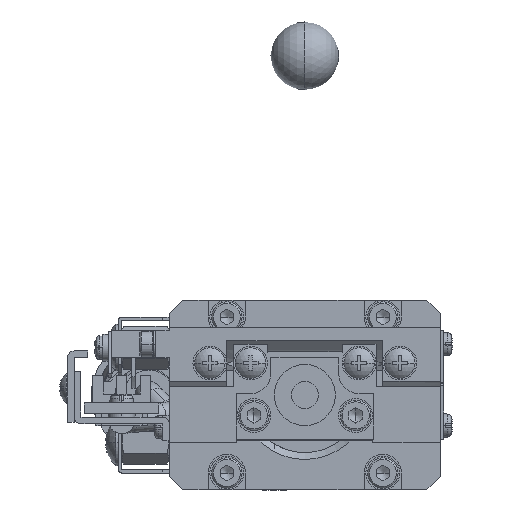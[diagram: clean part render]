
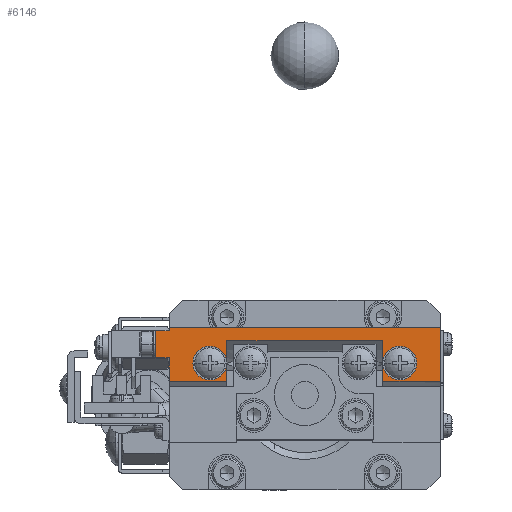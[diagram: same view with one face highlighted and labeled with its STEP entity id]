
A CAD part, left-side view. The second image highlights one B-rep face of the part: STEP entity #6146.
In plain terms, the highlighted planar face has unit normal (-1, 0, 0).
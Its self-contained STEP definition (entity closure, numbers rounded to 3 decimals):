
#1402 = PLANE ( 'NONE',  #17352 ) ;
#1781 = DIRECTION ( 'NONE',  ( 0., 1., 0. ) ) ;
#1808 = EDGE_CURVE ( 'NONE', #65902, #69815, #25655, .T. ) ;
#1823 = DIRECTION ( 'NONE',  ( 0., 0., 1. ) ) ;
#3505 = ORIENTED_EDGE ( 'NONE', *, *, #35122, .F. ) ;
#3704 = DIRECTION ( 'NONE',  ( 0., 1., 0. ) ) ;
#3941 = LINE ( 'NONE', #21443, #16340 ) ;
#4111 = DIRECTION ( 'NONE',  ( 0., 0., 1. ) ) ;
#4333 = CARTESIAN_POINT ( 'NONE',  ( -126.996, -106.409, -58.849 ) ) ;
#5306 = EDGE_CURVE ( 'NONE', #27805, #46071, #17742, .T. ) ;
#5704 = LINE ( 'NONE', #27641, #18034 ) ;
#6146 = ADVANCED_FACE ( 'NONE', ( #8097 ), #1402, .T. ) ;
#6915 = DIRECTION ( 'NONE',  ( 0., 1., 0. ) ) ;
#7143 = LINE ( 'NONE', #56476, #18630 ) ;
#7340 = DIRECTION ( 'NONE',  ( 0., 0., 1. ) ) ;
#7585 = DIRECTION ( 'NONE',  ( -1., 0., 0. ) ) ;
#7871 = ORIENTED_EDGE ( 'NONE', *, *, #1808, .F. ) ;
#8097 = FACE_OUTER_BOUND ( 'NONE', #33274, .T. ) ;
#8668 = CARTESIAN_POINT ( 'NONE',  ( -126.996, -80.909, -61.597 ) ) ;
#8812 = EDGE_CURVE ( 'NONE', #43288, #48448, #12671, .T. ) ;
#9478 = DIRECTION ( 'NONE',  ( 0., 1., 0. ) ) ;
#9816 = CARTESIAN_POINT ( 'NONE',  ( -126.996, -83.409, -58.296 ) ) ;
#10217 = DIRECTION ( 'NONE',  ( 0., 0., 1. ) ) ;
#10324 = DIRECTION ( 'NONE',  ( 0., 0., 1. ) ) ;
#10386 = DIRECTION ( 'NONE',  ( 0., 1., 0. ) ) ;
#10453 = CARTESIAN_POINT ( 'NONE',  ( -126.996, -83.409, -68.317 ) ) ;
#11118 = VERTEX_POINT ( 'NONE', #36730 ) ;
#12671 = LINE ( 'NONE', #10453, #73398 ) ;
#13242 = DIRECTION ( 'NONE',  ( 0., 1., 0. ) ) ;
#13533 = EDGE_CURVE ( 'NONE', #48448, #69815, #55663, .T. ) ;
#15837 = DIRECTION ( 'NONE',  ( 0., 0., 1. ) ) ;
#16340 = VECTOR ( 'NONE', #9478, 1000. ) ;
#16364 = ORIENTED_EDGE ( 'NONE', *, *, #53882, .F. ) ;
#17352 = AXIS2_PLACEMENT_3D ( 'NONE', #74535, #7585, #7340 ) ;
#17742 = LINE ( 'NONE', #40546, #68336 ) ;
#18034 = VECTOR ( 'NONE', #10324, 1000. ) ;
#18630 = VECTOR ( 'NONE', #13242, 1000. ) ;
#18852 = AXIS2_PLACEMENT_3D ( 'NONE', #75165, #50389, #1781 ) ;
#18899 = VECTOR ( 'NONE', #15837, 1000. ) ;
#19219 = DIRECTION ( 'NONE',  ( 0., 1., 0. ) ) ;
#19542 = VERTEX_POINT ( 'NONE', #59252 ) ;
#19715 = CARTESIAN_POINT ( 'NONE',  ( -126.996, -98.909, -58.296 ) ) ;
#20296 = ORIENTED_EDGE ( 'NONE', *, *, #13533, .T. ) ;
#20530 = CARTESIAN_POINT ( 'NONE',  ( -126.996, -74.909, -64.317 ) ) ;
#20548 = VECTOR ( 'NONE', #1823, 1000. ) ;
#20569 = EDGE_CURVE ( 'NONE', #19542, #43917, #68446, .T. ) ;
#21443 = CARTESIAN_POINT ( 'NONE',  ( -126.996, -78.409, -56.317 ) ) ;
#21708 = ORIENTED_EDGE ( 'NONE', *, *, #61086, .T. ) ;
#22230 = VECTOR ( 'NONE', #4111, 1000. ) ;
#24351 = CARTESIAN_POINT ( 'NONE',  ( -126.996, -83.409, -64.317 ) ) ;
#25181 = CARTESIAN_POINT ( 'NONE',  ( -126.996, -74.909, -64.317 ) ) ;
#25655 = LINE ( 'NONE', #19715, #44769 ) ;
#25799 = CARTESIAN_POINT ( 'NONE',  ( -126.996, -83.409, -61.597 ) ) ;
#27390 = ORIENTED_EDGE ( 'NONE', *, *, #31431, .F. ) ;
#27510 = VERTEX_POINT ( 'NONE', #60554 ) ;
#27641 = CARTESIAN_POINT ( 'NONE',  ( -126.996, -106.409, -68.317 ) ) ;
#27805 = VERTEX_POINT ( 'NONE', #79228 ) ;
#27910 = VECTOR ( 'NONE', #10386, 1000. ) ;
#28308 = DIRECTION ( 'NONE',  ( -1., 0., 0. ) ) ;
#28516 = CARTESIAN_POINT ( 'NONE',  ( -126.996, -72.909, -56.817 ) ) ;
#30827 = LINE ( 'NONE', #61294, #41335 ) ;
#31431 = EDGE_CURVE ( 'NONE', #27510, #48448, #66399, .T. ) ;
#31905 = EDGE_CURVE ( 'NONE', #27805, #11118, #56855, .T. ) ;
#33047 = ORIENTED_EDGE ( 'NONE', *, *, #68809, .F. ) ;
#33122 = AXIS2_PLACEMENT_3D ( 'NONE', #37861, #49861, #19219 ) ;
#33126 = EDGE_CURVE ( 'NONE', #43917, #65902, #55623, .T. ) ;
#33274 = EDGE_LOOP ( 'NONE', ( #74037, #75270, #68377, #27390, #41756, #20296, #7871, #35004, #74383, #16364, #3505, #37971, #74356, #21708, #54965, #57878, #45614, #33047 ) ) ;
#33765 = CIRCLE ( 'NONE', #18852, 2.5 ) ;
#35004 = ORIENTED_EDGE ( 'NONE', *, *, #33126, .F. ) ;
#35022 = VECTOR ( 'NONE', #50233, 1000. ) ;
#35122 = EDGE_CURVE ( 'NONE', #46071, #43917, #5704, .T. ) ;
#35579 = CARTESIAN_POINT ( 'NONE',  ( -126.996, -74.909, -56.817 ) ) ;
#35745 = VERTEX_POINT ( 'NONE', #40470 ) ;
#36228 = CIRCLE ( 'NONE', #41109, 2.5 ) ;
#36730 = CARTESIAN_POINT ( 'NONE',  ( -126.996, -114.909, -56.317 ) ) ;
#37861 = CARTESIAN_POINT ( 'NONE',  ( -126.996, -108.909, -61.597 ) ) ;
#37971 = ORIENTED_EDGE ( 'NONE', *, *, #5306, .F. ) ;
#38828 = DIRECTION ( 'NONE',  ( 0., 1., 0. ) ) ;
#39395 = VECTOR ( 'NONE', #10217, 1000. ) ;
#39882 = CARTESIAN_POINT ( 'NONE',  ( -126.996, -72.909, -60.817 ) ) ;
#40470 = CARTESIAN_POINT ( 'NONE',  ( -126.996, -74.909, -60.817 ) ) ;
#40546 = CARTESIAN_POINT ( 'NONE',  ( -126.996, -114.909, -64.317 ) ) ;
#41109 = AXIS2_PLACEMENT_3D ( 'NONE', #8668, #51353, #38828 ) ;
#41147 = DIRECTION ( 'NONE',  ( 0., 0., 1. ) ) ;
#41335 = VECTOR ( 'NONE', #6915, 1000. ) ;
#41756 = ORIENTED_EDGE ( 'NONE', *, *, #49742, .F. ) ;
#43288 = VERTEX_POINT ( 'NONE', #24351 ) ;
#43917 = VERTEX_POINT ( 'NONE', #49664 ) ;
#44553 = LINE ( 'NONE', #58674, #67436 ) ;
#44769 = VECTOR ( 'NONE', #68488, 1000. ) ;
#45084 = LINE ( 'NONE', #46935, #27910 ) ;
#45202 = EDGE_CURVE ( 'NONE', #48040, #76804, #44553, .T. ) ;
#45614 = ORIENTED_EDGE ( 'NONE', *, *, #45202, .T. ) ;
#46071 = VERTEX_POINT ( 'NONE', #55669 ) ;
#46277 = EDGE_CURVE ( 'NONE', #53064, #48040, #7143, .T. ) ;
#46935 = CARTESIAN_POINT ( 'NONE',  ( -126.996, -78.409, -64.317 ) ) ;
#48040 = VERTEX_POINT ( 'NONE', #28516 ) ;
#48448 = VERTEX_POINT ( 'NONE', #25799 ) ;
#49348 = LINE ( 'NONE', #62724, #35022 ) ;
#49664 = CARTESIAN_POINT ( 'NONE',  ( -126.996, -106.409, -61.597 ) ) ;
#49742 = EDGE_CURVE ( 'NONE', #48448, #27510, #36228, .T. ) ;
#49861 = DIRECTION ( 'NONE',  ( -1., 0., 0. ) ) ;
#50233 = DIRECTION ( 'NONE',  ( 0., 0., 1. ) ) ;
#50389 = DIRECTION ( 'NONE',  ( -1., 0., 0. ) ) ;
#51353 = DIRECTION ( 'NONE',  ( -1., 0., 0. ) ) ;
#52104 = EDGE_CURVE ( 'NONE', #53064, #63260, #49348, .T. ) ;
#53064 = VERTEX_POINT ( 'NONE', #35579 ) ;
#53071 = DIRECTION ( 'NONE',  ( 0., 0., -1. ) ) ;
#53882 = EDGE_CURVE ( 'NONE', #43917, #19542, #33765, .T. ) ;
#54712 = EDGE_CURVE ( 'NONE', #43288, #65627, #45084, .T. ) ;
#54965 = ORIENTED_EDGE ( 'NONE', *, *, #52104, .F. ) ;
#55623 = LINE ( 'NONE', #4333, #39395 ) ;
#55663 = LINE ( 'NONE', #76425, #22230 ) ;
#55669 = CARTESIAN_POINT ( 'NONE',  ( -126.996, -106.409, -64.317 ) ) ;
#56476 = CARTESIAN_POINT ( 'NONE',  ( -126.996, -74.909, -56.817 ) ) ;
#56855 = LINE ( 'NONE', #63194, #20548 ) ;
#57878 = ORIENTED_EDGE ( 'NONE', *, *, #46277, .T. ) ;
#58674 = CARTESIAN_POINT ( 'NONE',  ( -126.996, -72.909, -56.817 ) ) ;
#59252 = CARTESIAN_POINT ( 'NONE',  ( -126.996, -111.409, -61.597 ) ) ;
#59677 = CARTESIAN_POINT ( 'NONE',  ( -126.996, -106.409, -58.296 ) ) ;
#60554 = CARTESIAN_POINT ( 'NONE',  ( -126.996, -78.409, -61.597 ) ) ;
#61028 = CARTESIAN_POINT ( 'NONE',  ( -126.996, -74.909, -56.317 ) ) ;
#61086 = EDGE_CURVE ( 'NONE', #11118, #63260, #3941, .T. ) ;
#61294 = CARTESIAN_POINT ( 'NONE',  ( -126.996, -74.909, -60.817 ) ) ;
#62724 = CARTESIAN_POINT ( 'NONE',  ( -126.996, -74.909, -64.317 ) ) ;
#63194 = CARTESIAN_POINT ( 'NONE',  ( -126.996, -114.909, -64.317 ) ) ;
#63260 = VERTEX_POINT ( 'NONE', #61028 ) ;
#63812 = DIRECTION ( 'NONE',  ( 0., 1., 0. ) ) ;
#64869 = CARTESIAN_POINT ( 'NONE',  ( -126.996, -80.909, -61.597 ) ) ;
#65627 = VERTEX_POINT ( 'NONE', #20530 ) ;
#65902 = VERTEX_POINT ( 'NONE', #59677 ) ;
#66399 = CIRCLE ( 'NONE', #67175, 2.5 ) ;
#67175 = AXIS2_PLACEMENT_3D ( 'NONE', #64869, #28308, #63812 ) ;
#67436 = VECTOR ( 'NONE', #53071, 1000. ) ;
#68336 = VECTOR ( 'NONE', #3704, 1000. ) ;
#68377 = ORIENTED_EDGE ( 'NONE', *, *, #8812, .T. ) ;
#68446 = CIRCLE ( 'NONE', #33122, 2.5 ) ;
#68488 = DIRECTION ( 'NONE',  ( 0., 1., 0. ) ) ;
#68809 = EDGE_CURVE ( 'NONE', #35745, #76804, #30827, .T. ) ;
#69815 = VERTEX_POINT ( 'NONE', #9816 ) ;
#71380 = LINE ( 'NONE', #25181, #18899 ) ;
#73398 = VECTOR ( 'NONE', #41147, 1000. ) ;
#74037 = ORIENTED_EDGE ( 'NONE', *, *, #77444, .F. ) ;
#74356 = ORIENTED_EDGE ( 'NONE', *, *, #31905, .T. ) ;
#74383 = ORIENTED_EDGE ( 'NONE', *, *, #20569, .F. ) ;
#74535 = CARTESIAN_POINT ( 'NONE',  ( -126.996, -78.409, -64.317 ) ) ;
#75165 = CARTESIAN_POINT ( 'NONE',  ( -126.996, -108.909, -61.597 ) ) ;
#75270 = ORIENTED_EDGE ( 'NONE', *, *, #54712, .F. ) ;
#76425 = CARTESIAN_POINT ( 'NONE',  ( -126.996, -83.409, -58.849 ) ) ;
#76804 = VERTEX_POINT ( 'NONE', #39882 ) ;
#77444 = EDGE_CURVE ( 'NONE', #65627, #35745, #71380, .T. ) ;
#79228 = CARTESIAN_POINT ( 'NONE',  ( -126.996, -114.909, -64.317 ) ) ;
